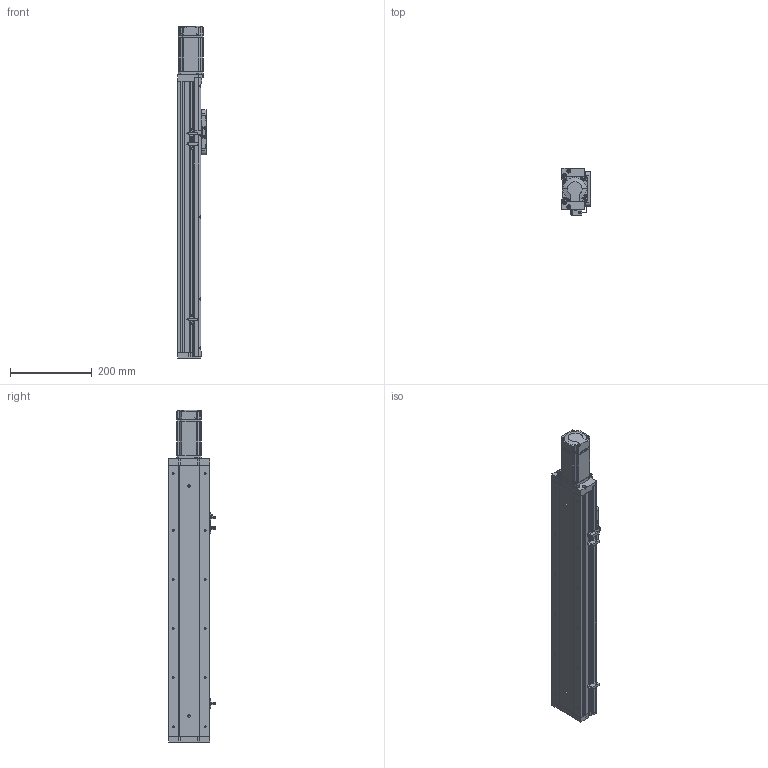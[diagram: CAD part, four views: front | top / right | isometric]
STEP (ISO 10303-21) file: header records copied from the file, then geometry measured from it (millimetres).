
FILE_DESCRIPTION (( 'STEP AP214' ), '1' );
FILE_NAME ('KSD100S-S450-MN-CR.STEP', '2019-09-02T09:12:32', ( '微软用户' ), ( '微软中国' ), 'SwSTEP 2.0', 'SolidWorks 2014', '' );
FILE_SCHEMA (( 'AUTOMOTIVE_DESIGN' ));
Length unit declared in the file: millimetre
Products named in the file (12): 100宽滚珠螺姆安装板1防护罩; 100宽滚珠螺姆安装板1; 100宽盖板压板不带电机座; 100宽盖板450行程不带电机座; 100宽侧板450行程不带电机座; 100宽底板全封闭450行程不带电机座; KSD100S-S450-MN-CR; MHMD042G1CA_2_03; U倰嫖萇EEㄜSX672; 感应片100宽全封闭; 100宽马达安装板全封闭不带电机座; 100宽端板全封闭
Assembly tree (15 placements, depth 2):
  KSD100S-S450-MN-CR
    100宽底板全封闭450行程不带电机座
    100宽侧板450行程不带电机座  x2
    100宽盖板450行程不带电机座
    100宽盖板压板不带电机座  x2
    100宽滚珠螺姆安装板1
    100宽滚珠螺姆安装板1防护罩
    100宽端板全封闭
    100宽马达安装板全封闭不带电机座
    感应片100宽全封闭
    U倰嫖萇EEㄜSX672  x3
    MHMD042G1CA_2_03
Bounding box: 70 x 113.7 x 810.5 mm (x, y, z)
Volume: 1410460.4 mm3; surface area: 632205.8 mm2
Topology: 14 solids, 15 shells, 1488 faces, 4164 edges, 2668 vertices
Faces by surface type: plane 656, cylinder 617, cone 197, bspline 18
Entity records: 50560 total; most frequent: CARTESIAN_POINT 7859, DIRECTION 6915, ORIENTED_EDGE 6448, EDGE_CURVE 3296, AXIS2_PLACEMENT_3D 2444, VERTEX_POINT 2186, LINE 2027, VECTOR 2027
